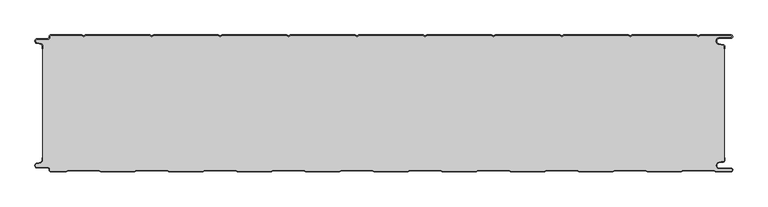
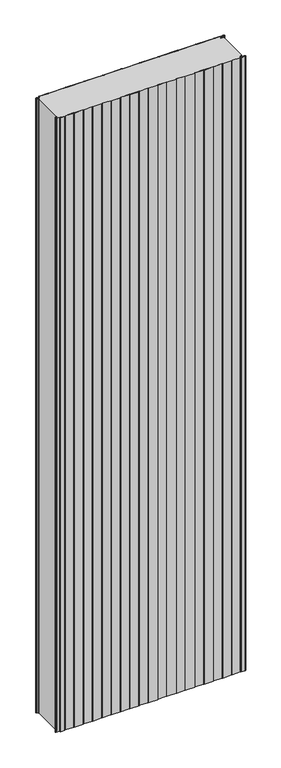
"""IFC4 building model written with IfcOpenShell, lengths in millimetres: plate geometry, PMH_Curtain-PaneL-Standard : ACH_PMH_Stone-wool-Panel_200M."""

from ifc_helpers import new_model, si_unit, point, frame_2d, origin, origin_with_axes, place, context, project, spatial, polyline, circle_curve, trimmed, segment, composite_curve, outline, extrude, source, transform, mapped, element, save


def plate_bfad9969(model_context):
    return source(origin(), model_context, "Body", "SweptSolid", [
        extrude(outline(composite_curve([segment(trimmed(circle_curve(frame_2d((-502.0, -15.878557)), 2.0), [point((-500.0, -15.878557))], [point((-501.5500978, -13.9298169))], True, "CARTESIAN"), True, "CONTINUOUS"), segment(polyline([(-501.5500978, -13.9298169), (-507.7098239, -12.507732)]), True, "CONTINUOUS"), segment(trimmed(circle_curve(frame_2d((-506.9, -9.0)), 3.6), [point((-507.7098239, -12.507732))], [point((-506.9, -5.4))], False, "CARTESIAN"), True, "CONTINUOUS"), segment(polyline([(-506.9, -5.4), (-491.4, -5.4)]), True, "CONTINUOUS"), segment(trimmed(circle_curve(frame_2d((-491.4, -3.4)), 2.0), [point((-491.4, -5.4))], [point((-489.4, -3.4))], True, "CARTESIAN"), True, "CONTINUOUS"), segment(polyline([(-489.4, -3.4), (-489.4, -2.0)]), True, "CONTINUOUS"), segment(trimmed(circle_curve(frame_2d((-487.4, -2.0)), 2.0), [point((-489.4, -2.0))], [point((-487.4, 0.0))], False, "CARTESIAN"), True, "CONTINUOUS"), segment(polyline([(-487.4, 0.0), (-442.0999995, 0.0), (-439.4, -1.5588455), (-436.7000005, 0.0), (-342.0999995, 0.0), (-339.4, -1.5588455), (-336.7000005, 0.0), (-242.0999995, 0.0), (-239.4, -1.5588455), (-236.7000005, 0.0), (-142.0999995, 0.0), (-139.4, -1.5588455), (-136.7000005, 0.0), (-42.0999995, 0.0), (-39.4, -1.5588455), (-36.7000005, 0.0), (57.9000005, 0.0), (60.6, -1.5588455), (63.2999995, 0.0), (157.9000005, 0.0), (160.6, -1.5588455), (163.2999995, 0.0), (257.9000005, 0.0), (260.6, -1.5588455), (263.2999995, 0.0), (357.9000005, 0.0), (360.6, -1.5588455), (363.2999995, 0.0), (457.9000005, 0.0), (460.6, -1.5588455), (463.2999995, 0.0), (508.1, 0.0)]), True, "CONTINUOUS"), segment(trimmed(circle_curve(frame_2d((508.1, -2.5)), 2.5), [point((508.1, 0.0))], [point((508.1, -5.0))], False, "CARTESIAN"), True, "CONTINUOUS"), segment(polyline([(508.1, -5.0), (491.1, -5.0)]), True, "CONTINUOUS"), segment(trimmed(circle_curve(frame_2d((491.1, -9.0)), 4.0), [point((491.1, -5.0))], [point((490.405407, -12.939231))], True, "CARTESIAN"), True, "CONTINUOUS"), segment(polyline([(490.405407, -12.939231), (496.8514855, -14.0758491)]), True, "CONTINUOUS"), segment(trimmed(circle_curve(frame_2d((496.4, -16.6363492)), 2.6), [point((496.8514855, -14.0758491))], [point((499.0, -16.6363492))], False, "CARTESIAN"), True, "CONTINUOUS"), segment(polyline([(499.0, -16.6363492), (499.0, -20.0), (498.2, -20.0), (498.2, -16.6363492)]), True, "CONTINUOUS"), segment(trimmed(circle_curve(frame_2d((496.4, -16.6363492)), 1.8), [point((498.2, -16.6363492))], [point((496.7125669, -14.8636953))], True, "CARTESIAN"), True, "CONTINUOUS"), segment(polyline([(496.7125669, -14.8636953), (490.2664884, -13.7270772)]), True, "CONTINUOUS"), segment(trimmed(circle_curve(frame_2d((491.1, -9.0)), 4.8), [point((490.2664884, -13.7270772))], [point((491.1, -4.2))], False, "CARTESIAN"), True, "CONTINUOUS"), segment(polyline([(491.1, -4.2), (508.1, -4.2)]), True, "CONTINUOUS"), segment(trimmed(circle_curve(frame_2d((508.1, -2.5)), 1.7), [point((508.1, -4.2))], [point((508.1, -0.8))], True, "CARTESIAN"), True, "CONTINUOUS"), segment(polyline([(508.1, -0.8), (463.5143588, -0.8), (460.6, -2.482606), (457.6856412, -0.8), (363.5143588, -0.8), (360.6, -2.482606), (357.6856412, -0.8), (263.5143588, -0.8), (260.6, -2.482606), (257.6856412, -0.8), (163.5143588, -0.8), (160.6, -2.482606), (157.6856412, -0.8), (63.5143588, -0.8), (60.6, -2.482606), (57.6856412, -0.8), (-36.4856412, -0.8), (-39.4, -2.482606), (-42.3143588, -0.8), (-136.4856412, -0.8), (-139.4, -2.482606), (-142.3143588, -0.8), (-236.4856412, -0.8), (-239.4, -2.482606), (-242.3143588, -0.8), (-336.4856412, -0.8), (-339.4, -2.482606), (-342.3143588, -0.8), (-436.4856412, -0.8), (-439.4, -2.482606), (-442.3143588, -0.8), (-487.4, -0.8)]), True, "CONTINUOUS"), segment(trimmed(circle_curve(frame_2d((-487.4, -2.0)), 1.2), [point((-487.4, -0.8))], [point((-488.6, -2.0))], True, "CARTESIAN"), True, "CONTINUOUS"), segment(polyline([(-488.6, -2.0), (-488.6, -3.4)]), True, "CONTINUOUS"), segment(trimmed(circle_curve(frame_2d((-491.4, -3.4)), 2.8), [point((-488.6, -3.4))], [point((-491.4, -6.2))], False, "CARTESIAN"), True, "CONTINUOUS"), segment(polyline([(-491.4, -6.2), (-506.9, -6.2)]), True, "CONTINUOUS"), segment(trimmed(circle_curve(frame_2d((-506.9, -9.0)), 2.8), [point((-506.9, -6.2))], [point((-507.529863, -11.7282362))], True, "CARTESIAN"), True, "CONTINUOUS"), segment(polyline([(-507.529863, -11.7282362), (-501.370137, -13.150321)]), True, "CONTINUOUS"), segment(trimmed(circle_curve(frame_2d((-502.0, -15.878557)), 2.8), [point((-501.370137, -13.150321))], [point((-499.2, -15.878557))], False, "CARTESIAN"), True, "CONTINUOUS"), segment(polyline([(-499.2, -15.878557), (-499.2, -20.0), (-500.0, -20.0), (-500.0, -15.878557)]), True, "CONTINUOUS")], self_intersect=False)), origin_with_axes(), (0.0, 0.0, 1.0), 3500.0),
        extrude(outline(composite_curve([segment(polyline([(-499.2, -184.121443), (-499.2, -15.8785573)]), True, "CONTINUOUS"), segment(trimmed(circle_curve(frame_2d((-502.0, -15.8785573)), 2.8), [point((-499.2, -15.8785573))], [point((-501.370137, -13.1503212))], True, "CARTESIAN"), True, "CONTINUOUS"), segment(polyline([(-501.370137, -13.1503212), (-507.5298631, -11.7282362)]), True, "CONTINUOUS"), segment(trimmed(circle_curve(frame_2d((-506.9, -9.0)), 2.8), [point((-507.5298631, -11.7282362))], [point((-506.9, -6.2))], False, "CARTESIAN"), True, "CONTINUOUS"), segment(polyline([(-506.9, -6.2), (-491.4000001, -6.2)]), True, "CONTINUOUS"), segment(trimmed(circle_curve(frame_2d((-491.4000001, -3.4)), 2.8), [point((-491.4000001, -6.2))], [point((-488.6000001, -3.4))], True, "CARTESIAN"), True, "CONTINUOUS"), segment(polyline([(-488.6000001, -3.4), (-488.6000001, -2.0)]), True, "CONTINUOUS"), segment(trimmed(circle_curve(frame_2d((-487.4000001, -2.0)), 1.2), [point((-488.6000001, -2.0))], [point((-487.4000001, -0.8))], False, "CARTESIAN"), True, "CONTINUOUS"), segment(polyline([(-487.4000001, -0.8), (-442.3143589, -0.8), (-439.4000001, -2.482606), (-436.4856412, -0.8), (-342.3143589, -0.8), (-339.4000001, -2.482606), (-336.4856412, -0.8), (-242.3143589, -0.8), (-239.4000001, -2.482606), (-236.4856412, -0.8), (-142.3143589, -0.8), (-139.4000001, -2.482606), (-136.4856412, -0.8), (-42.3143589, -0.8), (-39.4000001, -2.482606), (-36.4856412, -0.8), (57.6856411, -0.8), (60.5999999, -2.482606), (63.5143588, -0.8), (157.6856411, -0.8), (160.5999999, -2.482606), (163.5143588, -0.8), (257.6856411, -0.8), (260.5999999, -2.482606), (263.5143588, -0.8), (357.6856411, -0.8), (360.5999999, -2.482606), (363.5143588, -0.8), (457.6856411, -0.8), (460.5999999, -2.482606), (463.5143587, -0.8), (508.1, -0.8)]), True, "CONTINUOUS"), segment(trimmed(circle_curve(frame_2d((508.1, -2.5)), 1.7), [point((508.1, -0.8))], [point((508.1, -4.2))], False, "CARTESIAN"), True, "CONTINUOUS"), segment(polyline([(508.1, -4.2), (491.1, -4.2)]), True, "CONTINUOUS"), segment(trimmed(circle_curve(frame_2d((491.1, -9.0)), 4.8), [point((491.1, -4.2))], [point((490.2664883, -13.7270771))], True, "CARTESIAN"), True, "CONTINUOUS"), segment(polyline([(490.2664883, -13.7270771), (496.7125668, -14.8636953)]), True, "CONTINUOUS"), segment(trimmed(circle_curve(frame_2d((496.4, -16.6363492)), 1.8), [point((496.7125668, -14.8636953))], [point((498.2, -16.6363492))], False, "CARTESIAN"), True, "CONTINUOUS"), segment(polyline([(498.2, -16.6363492), (498.2, -183.363652)]), True, "CONTINUOUS"), segment(trimmed(circle_curve(frame_2d((496.4, -183.363652)), 1.8), [point((498.2, -183.363652))], [point((496.7125666, -185.1363059))], False, "CARTESIAN"), True, "CONTINUOUS"), segment(polyline([(496.7125666, -185.1363059), (490.266489, -186.272923)]), True, "CONTINUOUS"), segment(trimmed(circle_curve(frame_2d((491.1, -191.0000002)), 4.7999999), [point((490.266489, -186.272923))], [point((491.1, -195.8000001))], True, "CARTESIAN"), True, "CONTINUOUS"), segment(polyline([(491.1, -195.8000001), (508.1, -195.8000001)]), True, "CONTINUOUS"), segment(trimmed(circle_curve(frame_2d((508.1, -197.5)), 1.7), [point((508.1, -195.8000001))], [point((508.1, -199.2))], False, "CARTESIAN"), True, "CONTINUOUS"), segment(polyline([(508.1, -199.2), (485.8105122, -199.2), (483.2124346, -197.7), (437.9837184, -197.7), (435.3856408, -199.2), (385.8105122, -199.2), (383.2124346, -197.7), (337.9837184, -197.7), (335.3856408, -199.2), (285.8105122, -199.2), (283.2124346, -197.7), (237.9837184, -197.7), (235.3856408, -199.2), (185.8105122, -199.2), (183.2124346, -197.7), (137.9837184, -197.7), (135.3856408, -199.2), (85.8105122, -199.2), (83.2124346, -197.7), (37.9837184, -197.7), (35.3856408, -199.2), (-14.1894878, -199.2), (-16.7875654, -197.7), (-62.0162816, -197.7), (-64.6143592, -199.2), (-114.1894878, -199.2), (-116.7875654, -197.7), (-162.0162816, -197.7), (-164.6143592, -199.2), (-214.1894878, -199.2), (-216.7875654, -197.7), (-262.0162816, -197.7), (-264.6143592, -199.2), (-314.1894878, -199.2), (-316.7875654, -197.7), (-362.0162816, -197.7), (-364.6143592, -199.2), (-414.1894878, -199.2), (-416.7875654, -197.7), (-462.0162816, -197.7), (-464.6143592, -199.2), (-487.4, -199.2)]), True, "CONTINUOUS"), segment(trimmed(circle_curve(frame_2d((-487.4, -198.0)), 1.2), [point((-487.4, -199.2))], [point((-488.6, -198.0))], False, "CARTESIAN"), True, "CONTINUOUS"), segment(polyline([(-488.6, -198.0), (-488.6, -196.5999998)]), True, "CONTINUOUS"), segment(trimmed(circle_curve(frame_2d((-491.4, -196.5999998)), 2.8), [point((-488.6, -196.5999998))], [point((-491.4, -193.7999998))], True, "CARTESIAN"), True, "CONTINUOUS"), segment(polyline([(-491.4, -193.7999998), (-506.9, -193.7999998)]), True, "CONTINUOUS"), segment(trimmed(circle_curve(frame_2d((-506.9, -191.0)), 2.7999998), [point((-506.9, -193.7999998))], [point((-507.529863, -188.271764))], False, "CARTESIAN"), True, "CONTINUOUS"), segment(polyline([(-507.529863, -188.271764), (-501.370137, -186.8496792)]), True, "CONTINUOUS"), segment(trimmed(circle_curve(frame_2d((-502.0, -184.121443)), 2.8), [point((-501.370137, -186.8496792))], [point((-499.2, -184.121443))], True, "CARTESIAN"), True, "CONTINUOUS")], self_intersect=False)), origin_with_axes(), (0.0, 0.0, 1.0), 3500.0),
        extrude(outline(composite_curve([segment(trimmed(circle_curve(frame_2d((-487.4, -198.0)), 2.0), [point((-487.4, -200.0))], [point((-489.4, -198.0))], False, "CARTESIAN"), True, "CONTINUOUS"), segment(polyline([(-489.4, -198.0), (-489.4, -196.6)]), True, "CONTINUOUS"), segment(trimmed(circle_curve(frame_2d((-491.4, -196.6)), 2.0), [point((-489.4, -196.6))], [point((-491.4, -194.6))], True, "CARTESIAN"), True, "CONTINUOUS"), segment(polyline([(-491.4, -194.6), (-506.9, -194.6)]), True, "CONTINUOUS"), segment(trimmed(circle_curve(frame_2d((-506.9, -191.0)), 3.6), [point((-506.9, -194.6))], [point((-507.7098239, -187.4922678))], False, "CARTESIAN"), True, "CONTINUOUS"), segment(polyline([(-507.7098239, -187.4922678), (-501.5500979, -186.070183)]), True, "CONTINUOUS"), segment(trimmed(circle_curve(frame_2d((-502.0, -184.121443)), 2.0), [point((-501.5500979, -186.070183))], [point((-500.0, -184.121443))], True, "CARTESIAN"), True, "CONTINUOUS"), segment(polyline([(-500.0, -184.121443), (-500.0, -180.0), (-499.2, -180.0), (-499.2, -184.121443)]), True, "CONTINUOUS"), segment(trimmed(circle_curve(frame_2d((-502.0, -184.121443)), 2.8), [point((-499.2, -184.121443))], [point((-501.370137, -186.8496792))], False, "CARTESIAN"), True, "CONTINUOUS"), segment(polyline([(-501.370137, -186.8496792), (-507.529863, -188.271764)]), True, "CONTINUOUS"), segment(trimmed(circle_curve(frame_2d((-506.9, -191.0)), 2.8), [point((-507.529863, -188.271764))], [point((-506.9, -193.8))], True, "CARTESIAN"), True, "CONTINUOUS"), segment(polyline([(-506.9, -193.8), (-491.4, -193.8)]), True, "CONTINUOUS"), segment(trimmed(circle_curve(frame_2d((-491.4, -196.6)), 2.8), [point((-491.4, -193.8))], [point((-488.6, -196.6))], False, "CARTESIAN"), True, "CONTINUOUS"), segment(polyline([(-488.6, -196.6), (-488.6, -198.0)]), True, "CONTINUOUS"), segment(trimmed(circle_curve(frame_2d((-487.4, -198.0)), 1.2), [point((-488.6, -198.0))], [point((-487.4, -199.2))], True, "CARTESIAN"), True, "CONTINUOUS"), segment(polyline([(-487.4, -199.2), (-464.6143592, -199.2), (-462.0162816, -197.7), (-416.7875654, -197.7), (-414.1894878, -199.2), (-364.6143592, -199.2), (-362.0162816, -197.7), (-316.7875654, -197.7), (-314.1894878, -199.2), (-264.6143592, -199.2), (-262.0162816, -197.7), (-216.7875654, -197.7), (-214.1894878, -199.2), (-164.6143592, -199.2), (-162.0162816, -197.7), (-116.7875654, -197.7), (-114.1894878, -199.2), (-64.6143592, -199.2), (-62.0162816, -197.7), (-16.7875654, -197.7), (-14.1894878, -199.2), (35.3856408, -199.2), (37.9837184, -197.7), (83.2124346, -197.7), (85.8105122, -199.2), (135.3856408, -199.2), (137.9837184, -197.7), (183.2124346, -197.7), (185.8105122, -199.2), (235.3856408, -199.2), (237.9837184, -197.7), (283.2124346, -197.7), (285.8105122, -199.2), (335.3856408, -199.2), (337.9837184, -197.7), (383.2124346, -197.7), (385.8105122, -199.2), (435.3856408, -199.2), (437.9837184, -197.7), (483.2124346, -197.7), (485.8105122, -199.2), (508.1, -199.2)]), True, "CONTINUOUS"), segment(trimmed(circle_curve(frame_2d((508.1, -197.5)), 1.7), [point((508.1, -199.2))], [point((508.1, -195.8))], True, "CARTESIAN"), True, "CONTINUOUS"), segment(polyline([(508.1, -195.8), (491.1, -195.8)]), True, "CONTINUOUS"), segment(trimmed(circle_curve(frame_2d((491.1, -191.0)), 4.8), [point((491.1, -195.8))], [point((490.266489, -186.2729227))], False, "CARTESIAN"), True, "CONTINUOUS"), segment(polyline([(490.266489, -186.2729227), (496.7125666, -185.1363058)]), True, "CONTINUOUS"), segment(trimmed(circle_curve(frame_2d((496.4, -183.363652)), 1.8), [point((496.7125666, -185.1363058))], [point((498.2, -183.363652))], True, "CARTESIAN"), True, "CONTINUOUS"), segment(polyline([(498.2, -183.363652), (498.2, -180.0), (499.0, -180.0), (499.0, -183.363652)]), True, "CONTINUOUS"), segment(trimmed(circle_curve(frame_2d((496.4, -183.363652)), 2.6), [point((499.0, -183.363652))], [point((496.8514851, -185.9241522))], False, "CARTESIAN"), True, "CONTINUOUS"), segment(polyline([(496.8514851, -185.9241522), (490.4054075, -187.0607691)]), True, "CONTINUOUS"), segment(trimmed(circle_curve(frame_2d((491.1, -191.0)), 4.0), [point((490.4054075, -187.0607691))], [point((491.1, -195.0))], True, "CARTESIAN"), True, "CONTINUOUS"), segment(polyline([(491.1, -195.0), (508.1, -195.0)]), True, "CONTINUOUS"), segment(trimmed(circle_curve(frame_2d((508.1, -197.5)), 2.5), [point((508.1, -195.0))], [point((508.1, -200.0))], False, "CARTESIAN"), True, "CONTINUOUS"), segment(polyline([(508.1, -200.0), (485.5961529, -200.0), (482.9980753, -198.5), (438.1980777, -198.5), (435.6000001, -200.0), (385.5961529, -200.0), (382.9980753, -198.5), (338.1980777, -198.5), (335.6000001, -200.0), (285.5961529, -200.0), (282.9980753, -198.5), (238.1980777, -198.5), (235.6000001, -200.0), (185.5961529, -200.0), (182.9980753, -198.5), (138.1980777, -198.5), (135.6000001, -200.0), (85.5961529, -200.0), (82.9980753, -198.5), (38.1980777, -198.5), (35.6000001, -200.0), (-14.4038471, -200.0), (-17.0019247, -198.5), (-61.8019223, -198.5), (-64.3999999, -200.0), (-114.4038471, -200.0), (-117.0019247, -198.5), (-161.8019223, -198.5), (-164.3999999, -200.0), (-214.4038471, -200.0), (-217.0019247, -198.5), (-261.8019223, -198.5), (-264.3999999, -200.0), (-314.4038471, -200.0), (-317.0019247, -198.5), (-361.8019223, -198.5), (-364.3999999, -200.0), (-414.4038471, -200.0), (-417.0019247, -198.5), (-461.8019223, -198.5), (-464.3999999, -200.0), (-487.4, -200.0)]), True, "CONTINUOUS")], self_intersect=False)), origin_with_axes(), (0.0, 0.0, 1.0), 3500.0),
    ])


if __name__ == "__main__":
    model = new_model("IFC4")
    model_context = context("Model", 3, world=origin())
    ifc_project = project(units=[si_unit("LENGTHUNIT", "METRE", prefix="MILLI")], contexts=[model_context])
    site = spatial("IfcSite", under=ifc_project)
    building = spatial("IfcBuilding", under=site)
    placement = place(None, origin())
    plate_shape = plate_bfad9969(model_context)
    element("IfcPlate", 1, ObjectType="PMH_Curtain-PaneL-Standard : ACH_PMH_Stone-wool-Panel_200M", at=placement, inside=building, context=model_context, shape_type="MappedRepresentation", body=[
        mapped(plate_shape, transform((0.0, 0.0, 0.0), x_axis=(1.0, 0.0, 0.0), y_axis=(0.0, 1.0, 0.0), z_axis=(0.0, 0.0, 1.0))),
    ])
    save(model, "model.ifc")
